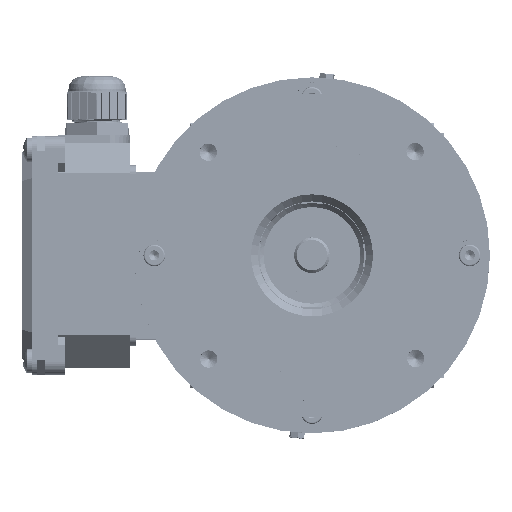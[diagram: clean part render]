
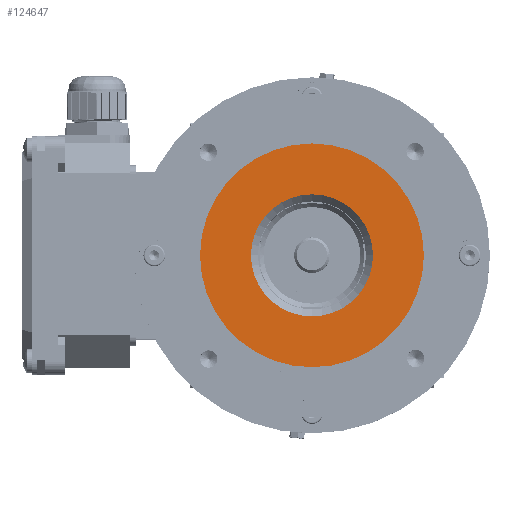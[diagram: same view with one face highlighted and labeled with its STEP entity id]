
A CAD part, top view. The second image highlights one B-rep face of the part: STEP entity #124647.
In plain terms, the highlighted planar face has unit normal (0, 0, 1).
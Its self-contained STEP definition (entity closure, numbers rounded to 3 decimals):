
#170 = FACE_BOUND ( 'NONE', #33572, .T. ) ;
#2172 = ORIENTED_EDGE ( 'NONE', *, *, #49605, .T. ) ;
#3208 = PLANE ( 'NONE',  #41869 ) ;
#3565 = FACE_OUTER_BOUND ( 'NONE', #110524, .T. ) ;
#3702 = DIRECTION ( 'NONE',  ( 0., 0., 1. ) ) ;
#4021 = AXIS2_PLACEMENT_3D ( 'NONE', #72610, #8794, #83357 ) ;
#8096 = VERTEX_POINT ( 'NONE', #122263 ) ;
#8794 = DIRECTION ( 'NONE',  ( 0., 0., 1. ) ) ;
#9249 = CIRCLE ( 'NONE', #4021, 24. ) ;
#12696 = DIRECTION ( 'NONE',  ( 0., 0., 1. ) ) ;
#13811 = VERTEX_POINT ( 'NONE', #55695 ) ;
#17259 = ORIENTED_EDGE ( 'NONE', *, *, #45263, .F. ) ;
#21956 = CIRCLE ( 'NONE', #89602, 44. ) ;
#24666 = CARTESIAN_POINT ( 'NONE',  ( 24., 0., -2.05 ) ) ;
#30666 = EDGE_CURVE ( 'NONE', #13811, #84131, #9249, .T. ) ;
#31012 = ORIENTED_EDGE ( 'NONE', *, *, #91448, .T. ) ;
#33572 = EDGE_LOOP ( 'NONE', ( #73629, #17259 ) ) ;
#35402 = DIRECTION ( 'NONE',  ( 0., 0., 1. ) ) ;
#41869 = AXIS2_PLACEMENT_3D ( 'NONE', #24666, #35402, #109999 ) ;
#45263 = EDGE_CURVE ( 'NONE', #84131, #13811, #126384, .T. ) ;
#49605 = EDGE_CURVE ( 'NONE', #70628, #8096, #21956, .T. ) ;
#55044 = CARTESIAN_POINT ( 'NONE',  ( -24., 0., -2.05 ) ) ;
#55695 = CARTESIAN_POINT ( 'NONE',  ( 24., 0., -2.05 ) ) ;
#61459 = DIRECTION ( 'NONE',  ( 0., 0., 1. ) ) ;
#67571 = CARTESIAN_POINT ( 'NONE',  ( 0., 0., -2.05 ) ) ;
#70628 = VERTEX_POINT ( 'NONE', #117339 ) ;
#72610 = CARTESIAN_POINT ( 'NONE',  ( 0., 0., -2.05 ) ) ;
#73070 = CIRCLE ( 'NONE', #131990, 44. ) ;
#73629 = ORIENTED_EDGE ( 'NONE', *, *, #30666, .F. ) ;
#76547 = CARTESIAN_POINT ( 'NONE',  ( 0., 0., -2.05 ) ) ;
#78302 = DIRECTION ( 'NONE',  ( 1., 0., 0. ) ) ;
#81974 = AXIS2_PLACEMENT_3D ( 'NONE', #67571, #3702, #78302 ) ;
#83357 = DIRECTION ( 'NONE',  ( 1., 0., 0. ) ) ;
#84131 = VERTEX_POINT ( 'NONE', #55044 ) ;
#87304 = DIRECTION ( 'NONE',  ( 1., 0., 0. ) ) ;
#89602 = AXIS2_PLACEMENT_3D ( 'NONE', #125453, #61459, #136240 ) ;
#91448 = EDGE_CURVE ( 'NONE', #8096, #70628, #73070, .T. ) ;
#109999 = DIRECTION ( 'NONE',  ( 1., 0., 0. ) ) ;
#110524 = EDGE_LOOP ( 'NONE', ( #2172, #31012 ) ) ;
#117339 = CARTESIAN_POINT ( 'NONE',  ( 44., 0., -2.05 ) ) ;
#122263 = CARTESIAN_POINT ( 'NONE',  ( -44., 0., -2.05 ) ) ;
#124647 = ADVANCED_FACE ( 'NONE', ( #3565, #170 ), #3208, .T. ) ;
#125453 = CARTESIAN_POINT ( 'NONE',  ( 0., 0., -2.05 ) ) ;
#126384 = CIRCLE ( 'NONE', #81974, 24. ) ;
#131990 = AXIS2_PLACEMENT_3D ( 'NONE', #76547, #12696, #87304 ) ;
#136240 = DIRECTION ( 'NONE',  ( 1., 0., 0. ) ) ;
